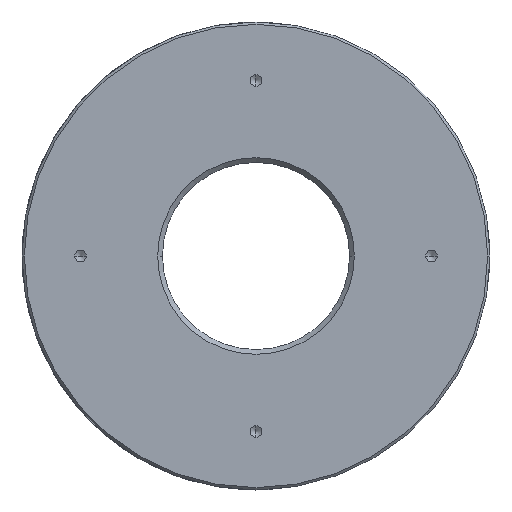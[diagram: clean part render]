
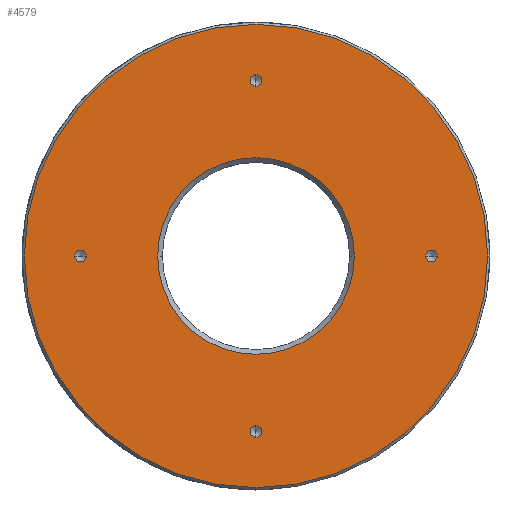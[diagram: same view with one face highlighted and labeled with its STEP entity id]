
A CAD part, front view. The second image highlights one B-rep face of the part: STEP entity #4579.
In plain terms, the highlighted planar face has unit normal (0, -1, 0).
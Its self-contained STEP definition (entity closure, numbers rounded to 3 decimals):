
#110 = VERTEX_POINT ( 'NONE', #1194 ) ;
#139 = ORIENTED_EDGE ( 'NONE', *, *, #2974, .F. ) ;
#220 = VERTEX_POINT ( 'NONE', #3389 ) ;
#239 = PLANE ( 'NONE',  #4904 ) ;
#242 = ORIENTED_EDGE ( 'NONE', *, *, #2937, .F. ) ;
#247 = DIRECTION ( 'NONE',  ( 0., -1., 0. ) ) ;
#274 = DIRECTION ( 'NONE',  ( -1., 0., 0. ) ) ;
#289 = ORIENTED_EDGE ( 'NONE', *, *, #405, .F. ) ;
#303 = DIRECTION ( 'NONE',  ( 0., 0., 1. ) ) ;
#381 = EDGE_CURVE ( 'NONE', #4322, #3214, #2021, .T. ) ;
#397 = CARTESIAN_POINT ( 'NONE',  ( 6305.844, 1254.441, 0. ) ) ;
#405 = EDGE_CURVE ( 'NONE', #3009, #3302, #3967, .T. ) ;
#413 = EDGE_CURVE ( 'NONE', #491, #4220, #3305, .T. ) ;
#433 = CARTESIAN_POINT ( 'NONE',  ( 6267.094, 1254.441, -49.5 ) ) ;
#461 = CARTESIAN_POINT ( 'NONE',  ( 6267.094, 1254.441, 0. ) ) ;
#491 = VERTEX_POINT ( 'NONE', #1456 ) ;
#500 = AXIS2_PLACEMENT_3D ( 'NONE', #768, #2248, #4922 ) ;
#512 = ORIENTED_EDGE ( 'NONE', *, *, #4364, .F. ) ;
#573 = FACE_OUTER_BOUND ( 'NONE', #749, .T. ) ;
#585 = ORIENTED_EDGE ( 'NONE', *, *, #3257, .F. ) ;
#639 = CIRCLE ( 'NONE', #4494, 1.25 ) ;
#653 = DIRECTION ( 'NONE',  ( 0., -1., 0. ) ) ;
#668 = CARTESIAN_POINT ( 'NONE',  ( 6267.094, 1254.441, 0. ) ) ;
#678 = DIRECTION ( 'NONE',  ( 0., 1., 0. ) ) ;
#681 = AXIS2_PLACEMENT_3D ( 'NONE', #1480, #653, #274 ) ;
#705 = CARTESIAN_POINT ( 'NONE',  ( 6267.094, 1254.441, 36.25 ) ) ;
#712 = VERTEX_POINT ( 'NONE', #433 ) ;
#740 = CARTESIAN_POINT ( 'NONE',  ( 6267.094, 1254.441, 37.5 ) ) ;
#749 = EDGE_LOOP ( 'NONE', ( #3248, #2962 ) ) ;
#768 = CARTESIAN_POINT ( 'NONE',  ( 6304.594, 1254.441, 0. ) ) ;
#864 = EDGE_LOOP ( 'NONE', ( #1346, #289 ) ) ;
#1064 = CIRCLE ( 'NONE', #2177, 21. ) ;
#1131 = ORIENTED_EDGE ( 'NONE', *, *, #413, .T. ) ;
#1194 = CARTESIAN_POINT ( 'NONE',  ( 6267.094, 1254.441, 49.5 ) ) ;
#1271 = DIRECTION ( 'NONE',  ( 0., -1., 0. ) ) ;
#1346 = ORIENTED_EDGE ( 'NONE', *, *, #4032, .F. ) ;
#1375 = CARTESIAN_POINT ( 'NONE',  ( 0., 1254.441, 0. ) ) ;
#1430 = CARTESIAN_POINT ( 'NONE',  ( 6304.594, 1254.441, 0. ) ) ;
#1450 = FACE_BOUND ( 'NONE', #1740, .T. ) ;
#1456 = CARTESIAN_POINT ( 'NONE',  ( 6267.094, 1254.441, -21. ) ) ;
#1480 = CARTESIAN_POINT ( 'NONE',  ( 6229.594, 1254.441, 0. ) ) ;
#1496 = VERTEX_POINT ( 'NONE', #4743 ) ;
#1511 = AXIS2_PLACEMENT_3D ( 'NONE', #4722, #1271, #2850 ) ;
#1518 = CIRCLE ( 'NONE', #3528, 1.25 ) ;
#1564 = DIRECTION ( 'NONE',  ( 0., 0., 1. ) ) ;
#1638 = EDGE_CURVE ( 'NONE', #4220, #491, #1064, .T. ) ;
#1738 = FACE_BOUND ( 'NONE', #3941, .T. ) ;
#1740 = EDGE_LOOP ( 'NONE', ( #139, #3260 ) ) ;
#1938 = CIRCLE ( 'NONE', #4759, 49.5 ) ;
#2007 = EDGE_CURVE ( 'NONE', #110, #712, #1938, .T. ) ;
#2021 = CIRCLE ( 'NONE', #500, 1.25 ) ;
#2060 = DIRECTION ( 'NONE',  ( -1., 0., 0. ) ) ;
#2072 = EDGE_LOOP ( 'NONE', ( #242, #3126 ) ) ;
#2177 = AXIS2_PLACEMENT_3D ( 'NONE', #668, #2976, #4920 ) ;
#2207 = FACE_BOUND ( 'NONE', #864, .T. ) ;
#2242 = AXIS2_PLACEMENT_3D ( 'NONE', #461, #2648, #1564 ) ;
#2248 = DIRECTION ( 'NONE',  ( 0., -1., 0. ) ) ;
#2272 = DIRECTION ( 'NONE',  ( 0., 0., 1. ) ) ;
#2380 = CARTESIAN_POINT ( 'NONE',  ( 6303.344, 1254.441, 0. ) ) ;
#2423 = DIRECTION ( 'NONE',  ( 0., -1., 0. ) ) ;
#2432 = CARTESIAN_POINT ( 'NONE',  ( 6229.594, 1254.441, 0. ) ) ;
#2627 = DIRECTION ( 'NONE',  ( 0., -1., 0. ) ) ;
#2648 = DIRECTION ( 'NONE',  ( 0., 1., 0. ) ) ;
#2657 = DIRECTION ( 'NONE',  ( 1., 0., 0. ) ) ;
#2670 = DIRECTION ( 'NONE',  ( 0., -1., 0. ) ) ;
#2850 = DIRECTION ( 'NONE',  ( 0., 0., -1. ) ) ;
#2898 = CARTESIAN_POINT ( 'NONE',  ( 6267.094, 1254.441, 38.75 ) ) ;
#2911 = CIRCLE ( 'NONE', #681, 1.25 ) ;
#2930 = DIRECTION ( 'NONE',  ( 0., 0., 1. ) ) ;
#2937 = EDGE_CURVE ( 'NONE', #3214, #4322, #1518, .T. ) ;
#2962 = ORIENTED_EDGE ( 'NONE', *, *, #3646, .F. ) ;
#2974 = EDGE_CURVE ( 'NONE', #1496, #220, #2911, .T. ) ;
#2976 = DIRECTION ( 'NONE',  ( 0., 1., 0. ) ) ;
#3009 = VERTEX_POINT ( 'NONE', #705 ) ;
#3124 = CARTESIAN_POINT ( 'NONE',  ( 6267.094, 1254.441, -36.25 ) ) ;
#3126 = ORIENTED_EDGE ( 'NONE', *, *, #381, .F. ) ;
#3214 = VERTEX_POINT ( 'NONE', #397 ) ;
#3229 = CIRCLE ( 'NONE', #4137, 1.25 ) ;
#3248 = ORIENTED_EDGE ( 'NONE', *, *, #2007, .F. ) ;
#3257 = EDGE_CURVE ( 'NONE', #4380, #4713, #3229, .T. ) ;
#3260 = ORIENTED_EDGE ( 'NONE', *, *, #4061, .F. ) ;
#3280 = CARTESIAN_POINT ( 'NONE',  ( 6267.094, 1254.441, 37.5 ) ) ;
#3298 = FACE_BOUND ( 'NONE', #3771, .T. ) ;
#3302 = VERTEX_POINT ( 'NONE', #2898 ) ;
#3305 = CIRCLE ( 'NONE', #3973, 21. ) ;
#3337 = DIRECTION ( 'NONE',  ( 0., 1., 0. ) ) ;
#3389 = CARTESIAN_POINT ( 'NONE',  ( 6230.844, 1254.441, 0. ) ) ;
#3528 = AXIS2_PLACEMENT_3D ( 'NONE', #1430, #2627, #2657 ) ;
#3646 = EDGE_CURVE ( 'NONE', #712, #110, #4021, .T. ) ;
#3667 = CARTESIAN_POINT ( 'NONE',  ( 6267.094, 1254.441, -37.5 ) ) ;
#3691 = CIRCLE ( 'NONE', #4018, 1.25 ) ;
#3762 = CARTESIAN_POINT ( 'NONE',  ( 6267.094, 1254.441, 0. ) ) ;
#3771 = EDGE_LOOP ( 'NONE', ( #1131, #4002 ) ) ;
#3795 = DIRECTION ( 'NONE',  ( 0., 1., 0. ) ) ;
#3806 = CARTESIAN_POINT ( 'NONE',  ( 6267.094, 1254.441, 21. ) ) ;
#3820 = DIRECTION ( 'NONE',  ( 0., 0., 1. ) ) ;
#3941 = EDGE_LOOP ( 'NONE', ( #585, #512 ) ) ;
#3967 = CIRCLE ( 'NONE', #4608, 1.25 ) ;
#3973 = AXIS2_PLACEMENT_3D ( 'NONE', #4169, #3795, #3820 ) ;
#4002 = ORIENTED_EDGE ( 'NONE', *, *, #1638, .T. ) ;
#4018 = AXIS2_PLACEMENT_3D ( 'NONE', #3280, #247, #4036 ) ;
#4021 = CIRCLE ( 'NONE', #2242, 49.5 ) ;
#4032 = EDGE_CURVE ( 'NONE', #3302, #3009, #3691, .T. ) ;
#4036 = DIRECTION ( 'NONE',  ( 0., 0., 1. ) ) ;
#4061 = EDGE_CURVE ( 'NONE', #220, #1496, #639, .T. ) ;
#4098 = FACE_BOUND ( 'NONE', #2072, .T. ) ;
#4137 = AXIS2_PLACEMENT_3D ( 'NONE', #3667, #2423, #4402 ) ;
#4169 = CARTESIAN_POINT ( 'NONE',  ( 6267.094, 1254.441, 0. ) ) ;
#4220 = VERTEX_POINT ( 'NONE', #3806 ) ;
#4322 = VERTEX_POINT ( 'NONE', #2380 ) ;
#4364 = EDGE_CURVE ( 'NONE', #4713, #4380, #4897, .T. ) ;
#4380 = VERTEX_POINT ( 'NONE', #4724 ) ;
#4402 = DIRECTION ( 'NONE',  ( 0., 0., -1. ) ) ;
#4455 = DIRECTION ( 'NONE',  ( 0., -1., 0. ) ) ;
#4494 = AXIS2_PLACEMENT_3D ( 'NONE', #2432, #4455, #2060 ) ;
#4579 = ADVANCED_FACE ( 'NONE', ( #4098, #2207, #1450, #1738, #573, #3298 ), #239, .F. ) ;
#4608 = AXIS2_PLACEMENT_3D ( 'NONE', #740, #2670, #2272 ) ;
#4713 = VERTEX_POINT ( 'NONE', #3124 ) ;
#4722 = CARTESIAN_POINT ( 'NONE',  ( 6267.094, 1254.441, -37.5 ) ) ;
#4724 = CARTESIAN_POINT ( 'NONE',  ( 6267.094, 1254.441, -38.75 ) ) ;
#4743 = CARTESIAN_POINT ( 'NONE',  ( 6228.344, 1254.441, 0. ) ) ;
#4759 = AXIS2_PLACEMENT_3D ( 'NONE', #3762, #3337, #303 ) ;
#4897 = CIRCLE ( 'NONE', #1511, 1.25 ) ;
#4904 = AXIS2_PLACEMENT_3D ( 'NONE', #1375, #678, #2930 ) ;
#4920 = DIRECTION ( 'NONE',  ( 0., 0., 1. ) ) ;
#4922 = DIRECTION ( 'NONE',  ( 1., 0., 0. ) ) ;
